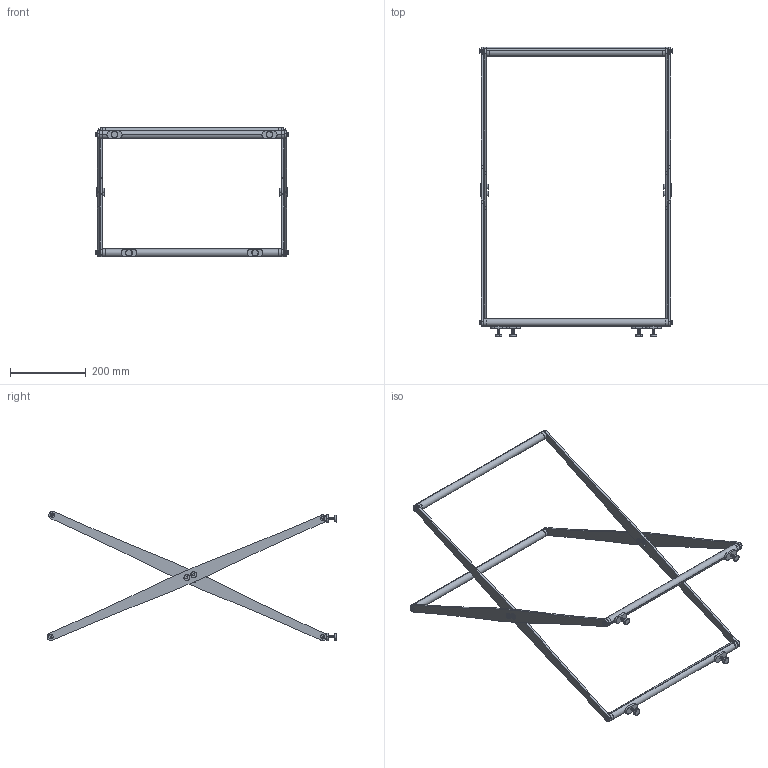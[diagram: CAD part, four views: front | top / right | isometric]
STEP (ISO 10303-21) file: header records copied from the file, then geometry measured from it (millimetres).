
FILE_DESCRIPTION (( 'STEP AP214' ), '1' );
FILE_NAME ('Sk³adany wieszak na 2 rêczniki VELTO .STEP', '2026-05-22T11:59:02', ( '' ), ( '' ), 'SwSTEP 2.0', 'SolidWorks 2021', '' );
FILE_SCHEMA (( 'AUTOMOTIVE_DESIGN' ));
Length unit declared in the file: millimetre
Products named in the file (17): 02-020-0500-S-02-00; Wk³adka gwintowa M6 do rur fi20; Sk³adany wieszak na 2 rêczniki VELTO ; stopka meblowa m6; 02-020-0500-S-04-01; socket countersunk head screw_din_DIN 7991 - M6 x 30 --- 23.7N; Nakrêtka Ericson M8x15; 02-020-0500-S-05-01; 02-020-0500-S-04-00; Podk³adka nylonowa M10; Podk³adka Shnorr M6; 02-020-0500-S-03-01; socket head thin cap screw_din_DIN 7984 - M8 x 12 --- 8.25N; 02-020-0500-S-05-00; 02-020-0500-S-06-00; 02-020-0500-S-01-00; 02-020-0500-S-03-00
Assembly tree (56 placements, depth 3):
  Sk³adany wieszak na 2 rêczniki VELTO 
    Podk³adka nylonowa M10  x4
    02-020-0500-S-04-00
      02-020-0500-S-04-01
      Wk³adka gwintowa M6 do rur fi20  x2
    02-020-0500-S-03-00
      02-020-0500-S-03-01
      Wk³adka gwintowa M6 do rur fi20  x2
    Podk³adka Shnorr M6  x8
    socket countersunk head screw_din_DIN 7991 - M6 x 30 --- 23.7N  x8
    02-020-0500-S-05-00
      02-020-0500-S-03-01
      Wk³adka gwintowa M6 do rur fi20  x2
      02-020-0500-S-05-01  x2
    02-020-0500-S-06-00
      02-020-0500-S-04-01
      Wk³adka gwintowa M6 do rur fi20  x2
      02-020-0500-S-05-01  x2
    stopka meblowa m6  x4
    Nakrêtka Ericson M8x15  x4
    socket head thin cap screw_din_DIN 7984 - M8 x 12 --- 8.25N  x4
    02-020-0500-S-01-00  x2
    02-020-0500-S-02-00  x2
Bounding box: 508.6 x 762.42 x 340.12 mm (x, y, z)
Volume: 711273.1 mm3; surface area: 473381.1 mm2
Topology: 52 solids, 52 shells, 1354 faces, 3406 edges, 2180 vertices
Faces by surface type: cylinder 674, plane 536, cone 80, torus 40, bspline 24
Entity records: 15018 total; most frequent: CARTESIAN_POINT 7214, DIRECTION 1533, ORIENTED_EDGE 1484, EDGE_CURVE 742, AXIS2_PLACEMENT_3D 586, VERTEX_POINT 481, LINE 361, VECTOR 361
